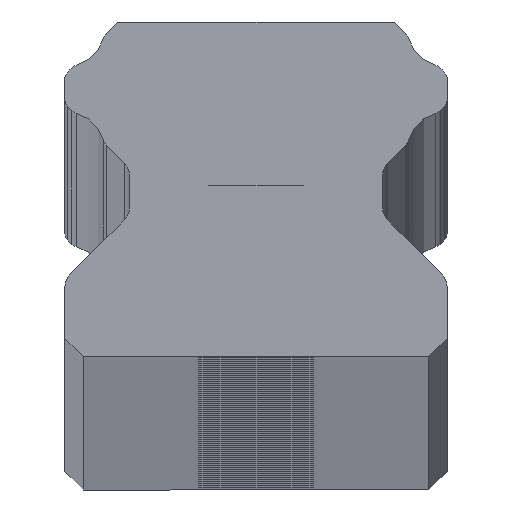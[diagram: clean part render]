
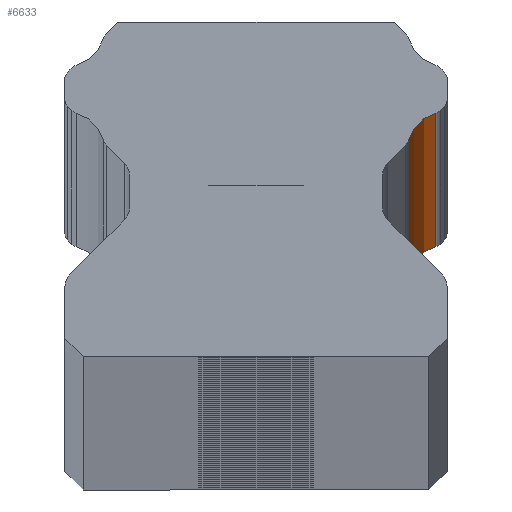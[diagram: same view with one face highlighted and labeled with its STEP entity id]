
A CAD part, top view. The second image highlights one B-rep face of the part: STEP entity #6633.
In plain terms, the highlighted cylindrical face has radius 2.03 mm (diameter 4.06 mm), a partial arc.
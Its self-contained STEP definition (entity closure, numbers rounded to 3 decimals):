
#163 = DIRECTION ( 'NONE',  ( 0., 0., 1. ) ) ;
#304 = AXIS2_PLACEMENT_3D ( 'NONE', #9356, #1188, #6781 ) ;
#595 = EDGE_CURVE ( 'NONE', #6455, #11385, #9461, .T. ) ;
#810 = DIRECTION ( 'NONE',  ( 0., 0., 1. ) ) ;
#1188 = DIRECTION ( 'NONE',  ( 0., 0., -1. ) ) ;
#1922 = ORIENTED_EDGE ( 'NONE', *, *, #6865, .T. ) ;
#2436 = CARTESIAN_POINT ( 'NONE',  ( 9.931, 1.629, -4000. ) ) ;
#3071 = VECTOR ( 'NONE', #163, 1000. ) ;
#3354 = CARTESIAN_POINT ( 'NONE',  ( 7.97, 2.152, -4000. ) ) ;
#3430 = ORIENTED_EDGE ( 'NONE', *, *, #9666, .T. ) ;
#3536 = CIRCLE ( 'NONE', #304, 2.03 ) ;
#3631 = DIRECTION ( 'NONE',  ( 1., 0., 0. ) ) ;
#4034 = CARTESIAN_POINT ( 'NONE',  ( 7.97, 2.152, -4000. ) ) ;
#4075 = CARTESIAN_POINT ( 'NONE',  ( 9.408, 3.59, -4000. ) ) ;
#4125 = AXIS2_PLACEMENT_3D ( 'NONE', #2436, #8784, #8849 ) ;
#4469 = VECTOR ( 'NONE', #810, 1000. ) ;
#4576 = CARTESIAN_POINT ( 'NONE',  ( 9.408, 3.59, 0. ) ) ;
#5017 = EDGE_LOOP ( 'NONE', ( #9723, #10959, #1922, #3430 ) ) ;
#5286 = CARTESIAN_POINT ( 'NONE',  ( 7.97, 2.152, 0. ) ) ;
#6099 = VERTEX_POINT ( 'NONE', #4075 ) ;
#6455 = VERTEX_POINT ( 'NONE', #3354 ) ;
#6633 = ADVANCED_FACE ( 'NONE', ( #10028 ), #8049, .F. ) ;
#6781 = DIRECTION ( 'NONE',  ( 1., 0., 0. ) ) ;
#6865 = EDGE_CURVE ( 'NONE', #6455, #6099, #9317, .T. ) ;
#8049 = CYLINDRICAL_SURFACE ( 'NONE', #9713, 2.03 ) ;
#8784 = DIRECTION ( 'NONE',  ( 0., 0., -1. ) ) ;
#8849 = DIRECTION ( 'NONE',  ( 1., 0., 0. ) ) ;
#9000 = DIRECTION ( 'NONE',  ( 0., 0., 1. ) ) ;
#9317 = CIRCLE ( 'NONE', #4125, 2.03 ) ;
#9356 = CARTESIAN_POINT ( 'NONE',  ( 9.931, 1.629, 0. ) ) ;
#9461 = LINE ( 'NONE', #4034, #3071 ) ;
#9666 = EDGE_CURVE ( 'NONE', #6099, #11862, #9764, .T. ) ;
#9713 = AXIS2_PLACEMENT_3D ( 'NONE', #9796, #9000, #3631 ) ;
#9723 = ORIENTED_EDGE ( 'NONE', *, *, #10478, .F. ) ;
#9764 = LINE ( 'NONE', #11566, #4469 ) ;
#9796 = CARTESIAN_POINT ( 'NONE',  ( 9.931, 1.629, -4000. ) ) ;
#10028 = FACE_OUTER_BOUND ( 'NONE', #5017, .T. ) ;
#10478 = EDGE_CURVE ( 'NONE', #11385, #11862, #3536, .T. ) ;
#10959 = ORIENTED_EDGE ( 'NONE', *, *, #595, .F. ) ;
#11385 = VERTEX_POINT ( 'NONE', #5286 ) ;
#11566 = CARTESIAN_POINT ( 'NONE',  ( 9.408, 3.59, -4000. ) ) ;
#11862 = VERTEX_POINT ( 'NONE', #4576 ) ;
